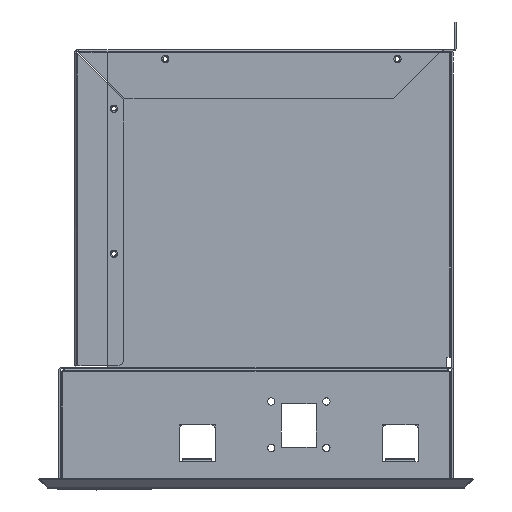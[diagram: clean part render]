
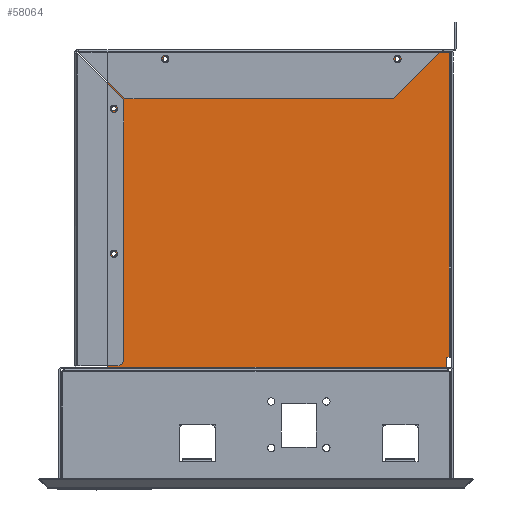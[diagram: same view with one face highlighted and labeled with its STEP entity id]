
A CAD part, left-side view. The second image highlights one B-rep face of the part: STEP entity #58064.
In plain terms, the highlighted planar face has unit normal (-1, 0, 0) as drawn and (1, 0, 0) by its records, which use the part's own axes.
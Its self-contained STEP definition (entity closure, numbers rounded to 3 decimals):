
#57229=CARTESIAN_POINT('Vertex',(1.,-118.5,-108.)) ;
#57267=CARTESIAN_POINT('Vertex',(1.,114.9,-108.)) ;
#57322=CARTESIAN_POINT('Vertex',(1.,-116.1,-28.7)) ;
#57325=CARTESIAN_POINT('Axis2P3D Location',(1.,-114.5,-28.7)) ;
#57329=CARTESIAN_POINT('Vertex',(1.,-114.5,-30.3)) ;
#57362=CARTESIAN_POINT('Vertex',(1.,-114.5,-27.1)) ;
#57365=CARTESIAN_POINT('Axis2P3D Location',(1.,-114.5,-28.7)) ;
#57393=CARTESIAN_POINT('Vertex',(1.,-112.9,-28.7)) ;
#57396=CARTESIAN_POINT('Axis2P3D Location',(1.,-114.5,-28.7)) ;
#57423=CARTESIAN_POINT('Axis2P3D Location',(1.,-114.5,-28.7)) ;
#57446=CARTESIAN_POINT('Vertex',(1.,-116.1,71.3)) ;
#57449=CARTESIAN_POINT('Axis2P3D Location',(1.,-114.5,71.3)) ;
#57453=CARTESIAN_POINT('Vertex',(1.,-114.5,69.7)) ;
#57486=CARTESIAN_POINT('Vertex',(1.,-114.5,72.9)) ;
#57489=CARTESIAN_POINT('Axis2P3D Location',(1.,-114.5,71.3)) ;
#57517=CARTESIAN_POINT('Vertex',(1.,-112.9,71.3)) ;
#57520=CARTESIAN_POINT('Axis2P3D Location',(1.,-114.5,71.3)) ;
#57547=CARTESIAN_POINT('Axis2P3D Location',(1.,-114.5,71.3)) ;
#57570=CARTESIAN_POINT('Vertex',(1.,79.4,105.5)) ;
#57573=CARTESIAN_POINT('Axis2P3D Location',(1.,81.,105.5)) ;
#57577=CARTESIAN_POINT('Vertex',(1.,81.,103.9)) ;
#57610=CARTESIAN_POINT('Vertex',(1.,81.,107.1)) ;
#57613=CARTESIAN_POINT('Axis2P3D Location',(1.,81.,105.5)) ;
#57641=CARTESIAN_POINT('Vertex',(1.,82.6,105.5)) ;
#57644=CARTESIAN_POINT('Axis2P3D Location',(1.,81.,105.5)) ;
#57671=CARTESIAN_POINT('Axis2P3D Location',(1.,81.,105.5)) ;
#57694=CARTESIAN_POINT('Vertex',(1.,-80.6,105.5)) ;
#57697=CARTESIAN_POINT('Axis2P3D Location',(1.,-79.,105.5)) ;
#57701=CARTESIAN_POINT('Vertex',(1.,-79.,103.9)) ;
#57734=CARTESIAN_POINT('Vertex',(1.,-79.,107.1)) ;
#57737=CARTESIAN_POINT('Axis2P3D Location',(1.,-79.,105.5)) ;
#57765=CARTESIAN_POINT('Vertex',(1.,-77.4,105.5)) ;
#57768=CARTESIAN_POINT('Axis2P3D Location',(1.,-79.,105.5)) ;
#57795=CARTESIAN_POINT('Axis2P3D Location',(1.,-79.,105.5)) ;
#57818=CARTESIAN_POINT('Vertex',(1.,-118.5,110.)) ;
#57821=CARTESIAN_POINT('Line Origine',(1.,-1.,110.)) ;
#57825=CARTESIAN_POINT('Vertex',(1.,116.5,110.)) ;
#57857=CARTESIAN_POINT('Line Origine',(1.,-118.5,1.)) ;
#57880=CARTESIAN_POINT('Vertex',(1.,114.9,-100.)) ;
#57883=CARTESIAN_POINT('Line Origine',(1.,114.9,-104.)) ;
#57905=CARTESIAN_POINT('Line Origine',(1.,-1.8,-108.)) ;
#57933=CARTESIAN_POINT('Vertex',(1.,116.5,-100.)) ;
#57936=CARTESIAN_POINT('Line Origine',(1.,115.7,-100.)) ;
#58022=CARTESIAN_POINT('Axis2P3D Location',(1.,0.,0.)) ;
#58027=CARTESIAN_POINT('Line Origine',(1.,116.5,0.)) ;
#57326=DIRECTION('Axis2P3D Direction',(1.,0.,0.)) ;
#57366=DIRECTION('Axis2P3D Direction',(1.,0.,0.)) ;
#57397=DIRECTION('Axis2P3D Direction',(1.,0.,0.)) ;
#57424=DIRECTION('Axis2P3D Direction',(1.,0.,0.)) ;
#57450=DIRECTION('Axis2P3D Direction',(1.,0.,0.)) ;
#57490=DIRECTION('Axis2P3D Direction',(1.,0.,0.)) ;
#57521=DIRECTION('Axis2P3D Direction',(1.,0.,0.)) ;
#57548=DIRECTION('Axis2P3D Direction',(1.,0.,0.)) ;
#57574=DIRECTION('Axis2P3D Direction',(1.,0.,0.)) ;
#57614=DIRECTION('Axis2P3D Direction',(1.,0.,0.)) ;
#57645=DIRECTION('Axis2P3D Direction',(1.,0.,0.)) ;
#57672=DIRECTION('Axis2P3D Direction',(1.,0.,0.)) ;
#57698=DIRECTION('Axis2P3D Direction',(1.,0.,0.)) ;
#57738=DIRECTION('Axis2P3D Direction',(1.,0.,0.)) ;
#57769=DIRECTION('Axis2P3D Direction',(1.,0.,0.)) ;
#57796=DIRECTION('Axis2P3D Direction',(1.,0.,0.)) ;
#57822=DIRECTION('Vector Direction',(0.,-1.,0.)) ;
#57858=DIRECTION('Vector Direction',(0.,0.,-1.)) ;
#57884=DIRECTION('Vector Direction',(0.,0.,-1.)) ;
#57906=DIRECTION('Vector Direction',(0.,-1.,0.)) ;
#57937=DIRECTION('Vector Direction',(0.,1.,0.)) ;
#58023=DIRECTION('Axis2P3D Direction',(1.,0.,0.)) ;
#58024=DIRECTION('Axis2P3D XDirection',(0.,1.,0.)) ;
#58028=DIRECTION('Vector Direction',(0.,0.,1.)) ;
#57327=AXIS2_PLACEMENT_3D('Circle Axis2P3D',#57325,#57326,$) ;
#57367=AXIS2_PLACEMENT_3D('Circle Axis2P3D',#57365,#57366,$) ;
#57398=AXIS2_PLACEMENT_3D('Circle Axis2P3D',#57396,#57397,$) ;
#57425=AXIS2_PLACEMENT_3D('Circle Axis2P3D',#57423,#57424,$) ;
#57451=AXIS2_PLACEMENT_3D('Circle Axis2P3D',#57449,#57450,$) ;
#57491=AXIS2_PLACEMENT_3D('Circle Axis2P3D',#57489,#57490,$) ;
#57522=AXIS2_PLACEMENT_3D('Circle Axis2P3D',#57520,#57521,$) ;
#57549=AXIS2_PLACEMENT_3D('Circle Axis2P3D',#57547,#57548,$) ;
#57575=AXIS2_PLACEMENT_3D('Circle Axis2P3D',#57573,#57574,$) ;
#57615=AXIS2_PLACEMENT_3D('Circle Axis2P3D',#57613,#57614,$) ;
#57646=AXIS2_PLACEMENT_3D('Circle Axis2P3D',#57644,#57645,$) ;
#57673=AXIS2_PLACEMENT_3D('Circle Axis2P3D',#57671,#57672,$) ;
#57699=AXIS2_PLACEMENT_3D('Circle Axis2P3D',#57697,#57698,$) ;
#57739=AXIS2_PLACEMENT_3D('Circle Axis2P3D',#57737,#57738,$) ;
#57770=AXIS2_PLACEMENT_3D('Circle Axis2P3D',#57768,#57769,$) ;
#57797=AXIS2_PLACEMENT_3D('Circle Axis2P3D',#57795,#57796,$) ;
#58025=AXIS2_PLACEMENT_3D('Plane Axis2P3D',#58022,#58023,#58024) ;
#58033=ORIENTED_EDGE('',*,*,#57887,.F.) ;
#58034=ORIENTED_EDGE('',*,*,#57940,.T.) ;
#58035=ORIENTED_EDGE('',*,*,#58031,.T.) ;
#58036=ORIENTED_EDGE('',*,*,#57827,.T.) ;
#58037=ORIENTED_EDGE('',*,*,#57861,.T.) ;
#58038=ORIENTED_EDGE('',*,*,#57909,.F.) ;
#58041=ORIENTED_EDGE('',*,*,#57331,.F.) ;
#58042=ORIENTED_EDGE('',*,*,#57369,.F.) ;
#58043=ORIENTED_EDGE('',*,*,#57400,.F.) ;
#58044=ORIENTED_EDGE('',*,*,#57427,.F.) ;
#58047=ORIENTED_EDGE('',*,*,#57455,.F.) ;
#58048=ORIENTED_EDGE('',*,*,#57493,.F.) ;
#58049=ORIENTED_EDGE('',*,*,#57524,.F.) ;
#58050=ORIENTED_EDGE('',*,*,#57551,.F.) ;
#58053=ORIENTED_EDGE('',*,*,#57579,.F.) ;
#58054=ORIENTED_EDGE('',*,*,#57617,.F.) ;
#58055=ORIENTED_EDGE('',*,*,#57648,.F.) ;
#58056=ORIENTED_EDGE('',*,*,#57675,.F.) ;
#58059=ORIENTED_EDGE('',*,*,#57703,.F.) ;
#58060=ORIENTED_EDGE('',*,*,#57741,.F.) ;
#58061=ORIENTED_EDGE('',*,*,#57772,.F.) ;
#58062=ORIENTED_EDGE('',*,*,#57799,.F.) ;
#58045=FACE_BOUND('',#58040,.T.) ;
#58051=FACE_BOUND('',#58046,.T.) ;
#58057=FACE_BOUND('',#58052,.T.) ;
#58063=FACE_BOUND('',#58058,.T.) ;
#57823=VECTOR('Line Direction',#57822,1.) ;
#57859=VECTOR('Line Direction',#57858,1.) ;
#57885=VECTOR('Line Direction',#57884,1.) ;
#57907=VECTOR('Line Direction',#57906,1.) ;
#57938=VECTOR('Line Direction',#57937,1.) ;
#58029=VECTOR('Line Direction',#58028,1.) ;
#58064=ADVANCED_FACE('PartBody',(#58039,#58045,#58051,#58057,#58063),#58026,.T.) ;
#57328=CIRCLE('generated circle',#57327,1.6) ;
#57368=CIRCLE('generated circle',#57367,1.6) ;
#57399=CIRCLE('generated circle',#57398,1.6) ;
#57426=CIRCLE('generated circle',#57425,1.6) ;
#57452=CIRCLE('generated circle',#57451,1.6) ;
#57492=CIRCLE('generated circle',#57491,1.6) ;
#57523=CIRCLE('generated circle',#57522,1.6) ;
#57550=CIRCLE('generated circle',#57549,1.6) ;
#57576=CIRCLE('generated circle',#57575,1.6) ;
#57616=CIRCLE('generated circle',#57615,1.6) ;
#57647=CIRCLE('generated circle',#57646,1.6) ;
#57674=CIRCLE('generated circle',#57673,1.6) ;
#57700=CIRCLE('generated circle',#57699,1.6) ;
#57740=CIRCLE('generated circle',#57739,1.6) ;
#57771=CIRCLE('generated circle',#57770,1.6) ;
#57798=CIRCLE('generated circle',#57797,1.6) ;
#57331=EDGE_CURVE('',#57323,#57330,#57328,.T.) ;
#57369=EDGE_CURVE('',#57363,#57323,#57368,.T.) ;
#57400=EDGE_CURVE('',#57394,#57363,#57399,.T.) ;
#57427=EDGE_CURVE('',#57330,#57394,#57426,.T.) ;
#57455=EDGE_CURVE('',#57447,#57454,#57452,.T.) ;
#57493=EDGE_CURVE('',#57487,#57447,#57492,.T.) ;
#57524=EDGE_CURVE('',#57518,#57487,#57523,.T.) ;
#57551=EDGE_CURVE('',#57454,#57518,#57550,.T.) ;
#57579=EDGE_CURVE('',#57571,#57578,#57576,.T.) ;
#57617=EDGE_CURVE('',#57611,#57571,#57616,.T.) ;
#57648=EDGE_CURVE('',#57642,#57611,#57647,.T.) ;
#57675=EDGE_CURVE('',#57578,#57642,#57674,.T.) ;
#57703=EDGE_CURVE('',#57695,#57702,#57700,.T.) ;
#57741=EDGE_CURVE('',#57735,#57695,#57740,.T.) ;
#57772=EDGE_CURVE('',#57766,#57735,#57771,.T.) ;
#57799=EDGE_CURVE('',#57702,#57766,#57798,.T.) ;
#57827=EDGE_CURVE('',#57826,#57819,#57824,.T.) ;
#57861=EDGE_CURVE('',#57819,#57230,#57860,.T.) ;
#57887=EDGE_CURVE('',#57881,#57268,#57886,.T.) ;
#57909=EDGE_CURVE('',#57268,#57230,#57908,.T.) ;
#57940=EDGE_CURVE('',#57881,#57934,#57939,.T.) ;
#58031=EDGE_CURVE('',#57934,#57826,#58030,.T.) ;
#58032=EDGE_LOOP('',(#58033,#58034,#58035,#58036,#58037,#58038)) ;
#58040=EDGE_LOOP('',(#58041,#58042,#58043,#58044)) ;
#58046=EDGE_LOOP('',(#58047,#58048,#58049,#58050)) ;
#58052=EDGE_LOOP('',(#58053,#58054,#58055,#58056)) ;
#58058=EDGE_LOOP('',(#58059,#58060,#58061,#58062)) ;
#58039=FACE_OUTER_BOUND('',#58032,.T.) ;
#57824=LINE('Line',#57821,#57823) ;
#57860=LINE('Line',#57857,#57859) ;
#57886=LINE('Line',#57883,#57885) ;
#57908=LINE('Line',#57905,#57907) ;
#57939=LINE('Line',#57936,#57938) ;
#58030=LINE('Line',#58027,#58029) ;
#58026=PLANE('',#58025) ;
#57230=VERTEX_POINT('',#57229) ;
#57268=VERTEX_POINT('',#57267) ;
#57323=VERTEX_POINT('',#57322) ;
#57330=VERTEX_POINT('',#57329) ;
#57363=VERTEX_POINT('',#57362) ;
#57394=VERTEX_POINT('',#57393) ;
#57447=VERTEX_POINT('',#57446) ;
#57454=VERTEX_POINT('',#57453) ;
#57487=VERTEX_POINT('',#57486) ;
#57518=VERTEX_POINT('',#57517) ;
#57571=VERTEX_POINT('',#57570) ;
#57578=VERTEX_POINT('',#57577) ;
#57611=VERTEX_POINT('',#57610) ;
#57642=VERTEX_POINT('',#57641) ;
#57695=VERTEX_POINT('',#57694) ;
#57702=VERTEX_POINT('',#57701) ;
#57735=VERTEX_POINT('',#57734) ;
#57766=VERTEX_POINT('',#57765) ;
#57819=VERTEX_POINT('',#57818) ;
#57826=VERTEX_POINT('',#57825) ;
#57881=VERTEX_POINT('',#57880) ;
#57934=VERTEX_POINT('',#57933) ;
